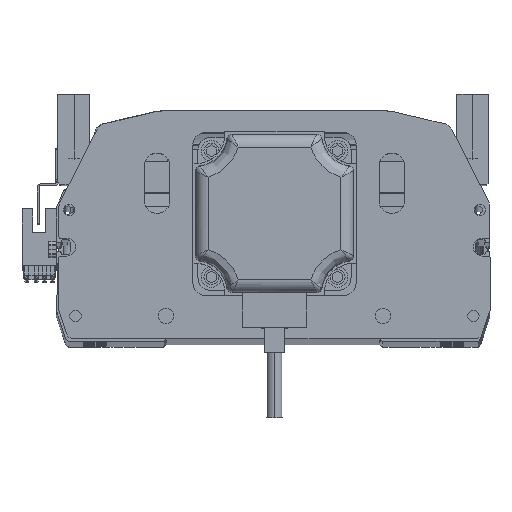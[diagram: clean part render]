
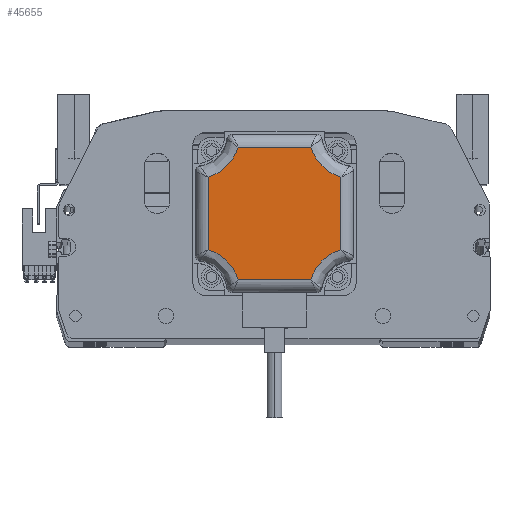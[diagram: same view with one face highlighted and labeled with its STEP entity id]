
A CAD part, top view. The second image highlights one B-rep face of the part: STEP entity #45655.
In plain terms, the highlighted planar face has unit normal (0, 0, 1) as drawn and (0, 0, -1) by its records, which use the part's own axes.
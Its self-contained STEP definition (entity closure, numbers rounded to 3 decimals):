
#88 = CARTESIAN_POINT ( 'NONE',  ( 26., -14.229, -116.5 ) ) ;
#356 = DIRECTION ( 'NONE',  ( 0., 0., 1. ) ) ;
#735 = VERTEX_POINT ( 'NONE', #23898 ) ;
#1134 = LINE ( 'NONE', #9967, #2377 ) ;
#2377 = VECTOR ( 'NONE', #36886, 1000. ) ;
#3102 =( BOUNDED_CURVE ( )  B_SPLINE_CURVE ( 3, ( #6183, #29681, #33613, #41302 ),
 .UNSPECIFIED., .F., .F. ) 
 B_SPLINE_CURVE_WITH_KNOTS ( ( 4, 4 ),
 ( 0., 1. ),
 .UNSPECIFIED. ) 
 CURVE ( )  GEOMETRIC_REPRESENTATION_ITEM ( )  RATIONAL_B_SPLINE_CURVE ( ( 1., 0.92, 0.92, 1. ) ) 
 REPRESENTATION_ITEM ( '' )  );
#3864 = CARTESIAN_POINT ( 'NONE',  ( -26., 14.229, -116.5 ) ) ;
#4417 = CARTESIAN_POINT ( 'NONE',  ( -14.229, 26., -116.5 ) ) ;
#5939 = ORIENTED_EDGE ( 'NONE', *, *, #23103, .F. ) ;
#6183 = CARTESIAN_POINT ( 'NONE',  ( 26., 14.229, -116.5 ) ) ;
#7214 = VERTEX_POINT ( 'NONE', #34163 ) ;
#7360 = VERTEX_POINT ( 'NONE', #3864 ) ;
#8024 = AXIS2_PLACEMENT_3D ( 'NONE', #43550, #356, #16338 ) ;
#8044 = FACE_OUTER_BOUND ( 'NONE', #33939, .T. ) ;
#9720 = CARTESIAN_POINT ( 'NONE',  ( -20.219, -15.953, -116.5 ) ) ;
#9967 = CARTESIAN_POINT ( 'NONE',  ( -15.5, -26., -116.5 ) ) ;
#10043 = CARTESIAN_POINT ( 'NONE',  ( -26., -14.229, -116.5 ) ) ;
#10462 = ORIENTED_EDGE ( 'NONE', *, *, #42605, .F. ) ;
#10715 = ORIENTED_EDGE ( 'NONE', *, *, #19713, .F. ) ;
#12396 = ORIENTED_EDGE ( 'NONE', *, *, #30202, .F. ) ;
#13382 = CARTESIAN_POINT ( 'NONE',  ( -14.229, 26., -116.5 ) ) ;
#13693 = VERTEX_POINT ( 'NONE', #39252 ) ;
#14620 = CARTESIAN_POINT ( 'NONE',  ( -26., 15.5, -116.5 ) ) ;
#14824 = VECTOR ( 'NONE', #30844, 1000. ) ;
#16338 = DIRECTION ( 'NONE',  ( 1., 0., 0. ) ) ;
#18138 = LINE ( 'NONE', #33432, #48157 ) ;
#18744 = EDGE_CURVE ( 'NONE', #13693, #49271, #35675, .T. ) ;
#18999 = ORIENTED_EDGE ( 'NONE', *, *, #36112, .F. ) ;
#19713 = EDGE_CURVE ( 'NONE', #7360, #735, #50288, .T. ) ;
#19820 = CARTESIAN_POINT ( 'NONE',  ( 14.229, -26., -116.5 ) ) ;
#20437 = ORIENTED_EDGE ( 'NONE', *, *, #34941, .F. ) ;
#22314 =( BOUNDED_CURVE ( )  B_SPLINE_CURVE ( 3, ( #10043, #9720, #33363, #25608 ),
 .UNSPECIFIED., .F., .F. ) 
 B_SPLINE_CURVE_WITH_KNOTS ( ( 4, 4 ),
 ( 0., 1. ),
 .UNSPECIFIED. ) 
 CURVE ( )  GEOMETRIC_REPRESENTATION_ITEM ( )  RATIONAL_B_SPLINE_CURVE ( ( 1., 0.92, 0.92, 1. ) ) 
 REPRESENTATION_ITEM ( '' )  );
#23103 = EDGE_CURVE ( 'NONE', #37705, #7214, #18138, .T. ) ;
#23760 = CARTESIAN_POINT ( 'NONE',  ( 15.953, -20.219, -116.5 ) ) ;
#23898 = CARTESIAN_POINT ( 'NONE',  ( -26., -14.229, -116.5 ) ) ;
#25018 = VERTEX_POINT ( 'NONE', #48195 ) ;
#25345 = VERTEX_POINT ( 'NONE', #50732 ) ;
#25608 = CARTESIAN_POINT ( 'NONE',  ( -14.229, -26., -116.5 ) ) ;
#29491 = VECTOR ( 'NONE', #38078, 1000. ) ;
#29681 = CARTESIAN_POINT ( 'NONE',  ( 20.219, 15.953, -116.5 ) ) ;
#30157 = DIRECTION ( 'NONE',  ( 0., 1., 0. ) ) ;
#30202 = EDGE_CURVE ( 'NONE', #25345, #25018, #1134, .T. ) ;
#30778 = CARTESIAN_POINT ( 'NONE',  ( 26., -14.229, -116.5 ) ) ;
#30844 = DIRECTION ( 'NONE',  ( -1., 0., 0. ) ) ;
#33363 = CARTESIAN_POINT ( 'NONE',  ( -15.953, -20.219, -116.5 ) ) ;
#33432 = CARTESIAN_POINT ( 'NONE',  ( 26., -15.5, -116.5 ) ) ;
#33507 = ORIENTED_EDGE ( 'NONE', *, *, #18744, .F. ) ;
#33613 = CARTESIAN_POINT ( 'NONE',  ( 15.953, 20.219, -116.5 ) ) ;
#33939 = EDGE_LOOP ( 'NONE', ( #20437, #33507, #18999, #5939, #10462, #12396, #40138, #10715 ) ) ;
#34163 = CARTESIAN_POINT ( 'NONE',  ( 26., 14.229, -116.5 ) ) ;
#34941 = EDGE_CURVE ( 'NONE', #49271, #7360, #40825, .T. ) ;
#35675 = LINE ( 'NONE', #50159, #14824 ) ;
#35715 = PLANE ( 'NONE',  #8024 ) ;
#36112 = EDGE_CURVE ( 'NONE', #7214, #13693, #3102, .T. ) ;
#36323 = CARTESIAN_POINT ( 'NONE',  ( -26., 14.229, -116.5 ) ) ;
#36886 = DIRECTION ( 'NONE',  ( 1., 0., 0. ) ) ;
#37705 = VERTEX_POINT ( 'NONE', #30778 ) ;
#38078 = DIRECTION ( 'NONE',  ( 0., -1., 0. ) ) ;
#39252 = CARTESIAN_POINT ( 'NONE',  ( 14.229, 26., -116.5 ) ) ;
#40138 = ORIENTED_EDGE ( 'NONE', *, *, #45345, .F. ) ;
#40238 = CARTESIAN_POINT ( 'NONE',  ( -20.219, 15.953, -116.5 ) ) ;
#40583 = CARTESIAN_POINT ( 'NONE',  ( -15.953, 20.219, -116.5 ) ) ;
#40825 =( BOUNDED_CURVE ( )  B_SPLINE_CURVE ( 3, ( #13382, #40583, #40238, #36323 ),
 .UNSPECIFIED., .F., .F. ) 
 B_SPLINE_CURVE_WITH_KNOTS ( ( 4, 4 ),
 ( 0., 1. ),
 .UNSPECIFIED. ) 
 CURVE ( )  GEOMETRIC_REPRESENTATION_ITEM ( )  RATIONAL_B_SPLINE_CURVE ( ( 1., 0.92, 0.92, 1. ) ) 
 REPRESENTATION_ITEM ( '' )  );
#41302 = CARTESIAN_POINT ( 'NONE',  ( 14.229, 26., -116.5 ) ) ;
#42605 = EDGE_CURVE ( 'NONE', #25018, #37705, #45532, .T. ) ;
#43550 = CARTESIAN_POINT ( 'NONE',  ( 0., 0., -116.5 ) ) ;
#45345 = EDGE_CURVE ( 'NONE', #735, #25345, #22314, .T. ) ;
#45532 =( BOUNDED_CURVE ( )  B_SPLINE_CURVE ( 3, ( #19820, #23760, #47235, #88 ),
 .UNSPECIFIED., .F., .F. ) 
 B_SPLINE_CURVE_WITH_KNOTS ( ( 4, 4 ),
 ( 0., 1. ),
 .UNSPECIFIED. ) 
 CURVE ( )  GEOMETRIC_REPRESENTATION_ITEM ( )  RATIONAL_B_SPLINE_CURVE ( ( 1., 0.92, 0.92, 1. ) ) 
 REPRESENTATION_ITEM ( '' )  );
#45655 = ADVANCED_FACE ( 'NONE', ( #8044 ), #35715, .F. ) ;
#47235 = CARTESIAN_POINT ( 'NONE',  ( 20.219, -15.953, -116.5 ) ) ;
#48157 = VECTOR ( 'NONE', #30157, 1000. ) ;
#48195 = CARTESIAN_POINT ( 'NONE',  ( 14.229, -26., -116.5 ) ) ;
#49271 = VERTEX_POINT ( 'NONE', #4417 ) ;
#50159 = CARTESIAN_POINT ( 'NONE',  ( 15.5, 26., -116.5 ) ) ;
#50288 = LINE ( 'NONE', #14620, #29491 ) ;
#50732 = CARTESIAN_POINT ( 'NONE',  ( -14.229, -26., -116.5 ) ) ;
